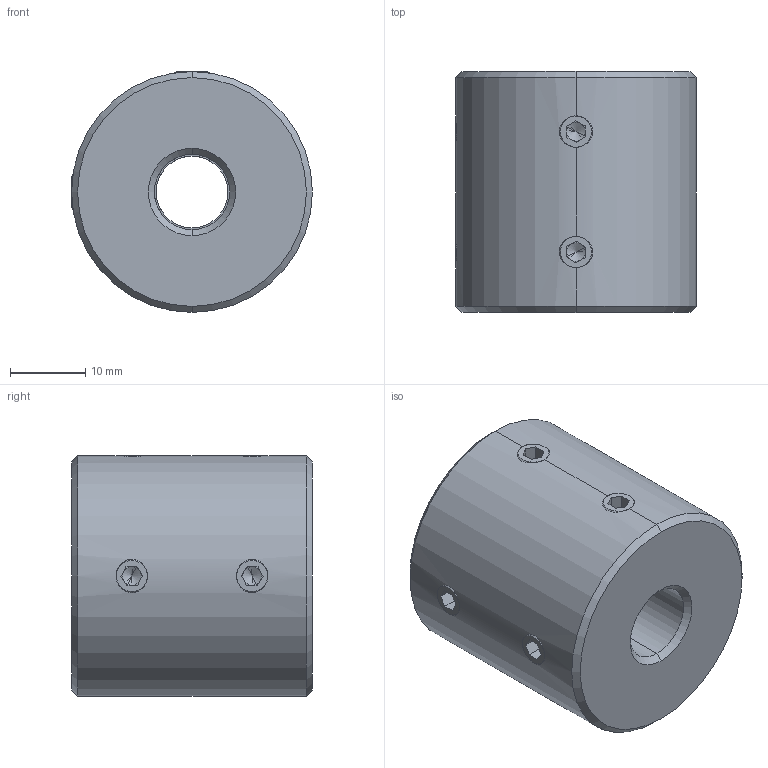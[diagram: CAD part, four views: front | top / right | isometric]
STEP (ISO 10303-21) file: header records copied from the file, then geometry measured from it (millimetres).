
FILE_DESCRIPTION (( 'STEP AP214' ), '1' );
FILE_NAME ('LL-D-D32L32-9.525-10½¨Ä£.STEP', '2022-07-22T11:26:30', ( '' ), ( '' ), 'SwSTEP 2.0', 'SolidWorks 2022', '' );
FILE_SCHEMA (( 'AUTOMOTIVE_DESIGN' ));
Length unit declared in the file: millimetre
Products named in the file (1): LL-D-D32L32-9.525-10膘耀
Bounding box: 32 x 32 x 32 mm (x, y, z)
Volume: 23026.9 mm3; surface area: 5816.9 mm2
Topology: 1 solids, 1 shells, 113 faces, 286 edges, 176 vertices
Faces by surface type: plane 59, cone 32, cylinder 22
Entity records: 3748 total; most frequent: CARTESIAN_POINT 1038, DIRECTION 558, ORIENTED_EDGE 556, EDGE_CURVE 278, AXIS2_PLACEMENT_3D 206, VERTEX_POINT 176, LINE 146, VECTOR 146
